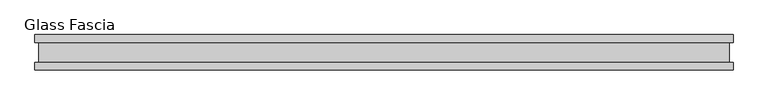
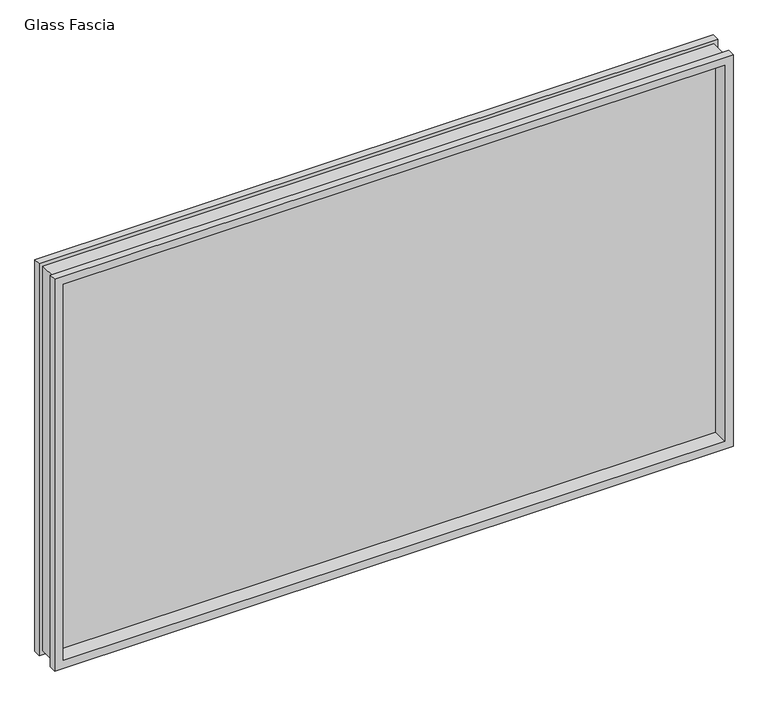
"""IFC4 building model written with IfcOpenShell, lengths in millimetres: proxy geometry, Panel-Fascia-Teknion-Altos-Glass : Glass Fascia."""

from ifc_helpers import new_model, si_unit, frame, origin, place, context, project, spatial, polyline, outline, extrude, faceted_brep, source, transform, mapped, element, save


def glass_fascia_22911ecb(model_context):
    return source(origin(), model_context, "Body", "SolidModel", [
        faceted_brep([(978.7046, -5.0827449, 1201.5625243), (978.7046, 5.0827449, 1201.5625243), (978.7046, 5.0827449, 17.6374757), (978.7046, -5.0827449, 17.6374757), (993.1670757, -28.8801202, 1216.025), (993.1670757, -50.0558594, 1216.025), (993.1670757, -50.0558594, 3.175), (993.1670757, -28.8801202, 3.175), (982.3420758, 28.2698798, 1205.2000001), (982.3420758, -28.8801202, 1205.2000001), (982.3420758, -28.8801202, 13.9999999), (982.3420758, 28.2698798, 13.9999999), (993.1670757, 50.0558594, 1216.025), (993.1670757, 28.2698798, 1216.025), (993.1670757, 28.2698798, 3.175), (993.1670757, 50.0558594, 3.175), (-978.7046, 5.0827449, 17.6374757), (-978.7046, -5.0827449, 17.6374757), (-993.1670757, -50.0558594, 3.175), (-993.1670757, -28.8801202, 3.175), (-982.3420758, -28.8801202, 13.9999999), (-982.3420758, 28.2698798, 13.9999999), (-993.1670757, 28.2698798, 3.175), (-993.1670757, 50.0558594, 3.175), (-978.7046, 5.0827449, 1201.5625243), (-978.7046, -5.0827449, 1201.5625243), (-993.1670757, -50.0558594, 1216.025), (-993.1670757, -28.8801202, 1216.025), (-982.3420758, -28.8801202, 1205.2000001), (-982.3420758, 28.2698798, 1205.2000001), (-993.1670757, 28.2698798, 1216.025), (-993.1670757, 50.0558594, 1216.025), (968.2144089, 50.0558594, 1191.0723332), (-968.2144089, 50.0558594, 1191.0723332), (-968.2144089, 50.0558594, 28.1276668), (968.2144089, 50.0558594, 28.1276668), (968.2144089, 5.0827449, 28.1276668), (-968.2144089, 5.0827449, 28.1276668), (-968.2144089, 5.0827449, 1191.0723332), (968.2144089, 5.0827449, 1191.0723332), (968.2144089, -5.0827449, 1191.0723332), (-968.2144089, -5.0827449, 1191.0723332), (-968.2144089, -5.0827449, 28.1276668), (968.2144089, -5.0827449, 28.1276668), (968.2144089, -50.0558594, 28.1276668), (-968.2144089, -50.0558594, 28.1276668), (-968.2144089, -50.0558594, 1191.0723332), (968.2144089, -50.0558594, 1191.0723332)], [[[0, 1, 2, 3]], [[4, 5, 6, 7]], [[8, 9, 10, 11]], [[12, 13, 14, 15]], [[3, 2, 16, 17]], [[7, 6, 18, 19]], [[11, 10, 20, 21]], [[15, 14, 22, 23]], [[17, 16, 24, 25]], [[19, 18, 26, 27]], [[21, 20, 28, 29]], [[23, 22, 30, 31]], [[15, 23, 31, 12], [32, 33, 34, 35]], [[1, 24, 16, 2], [36, 37, 38, 39]], [[25, 24, 1, 0]], [[3, 17, 25, 0], [40, 41, 42, 43]], [[5, 26, 18, 6], [44, 45, 46, 47]], [[27, 26, 5, 4]], [[7, 19, 27, 4], [9, 28, 20, 10]], [[29, 28, 9, 8]], [[13, 30, 22, 14], [11, 21, 29, 8]], [[31, 30, 13, 12]], [[39, 32, 35, 36]], [[47, 40, 43, 44]], [[36, 35, 34, 37]], [[44, 43, 42, 45]], [[37, 34, 33, 38]], [[45, 42, 41, 46]], [[38, 33, 32, 39]], [[46, 41, 40, 47]]]),
        extrude(outline(polyline([(978.7046, 2.9765625), (978.7046, -2.9765625), (-978.7046, -2.9765625), (-978.7046, 2.9765625), (978.7046, 2.9765625)])), frame((0.0, 0.0, 17.6374757), z_axis=(0.0, 0.0, 1.0), x_axis=(1.0, 0.0, 0.0)), (0.0, 0.0, 1.0), 1183.9250485),
    ])


if __name__ == "__main__":
    model = new_model("IFC4")
    model_context = context("Model", 3, world=origin())
    ifc_project = project(units=[si_unit("LENGTHUNIT", "METRE", prefix="MILLI")], contexts=[model_context])
    site = spatial("IfcSite", under=ifc_project)
    building = spatial("IfcBuilding", under=site)
    placement = place(None, origin())
    glass_fascia_shape = glass_fascia_22911ecb(model_context)
    element("IfcBuildingElementProxy", 1, Name="Panel-Fascia-Teknion-Altos-Glass : Glass Fascia", ObjectType="Panel-Fascia-Teknion-Altos-Glass : Glass Fascia", at=placement, inside=building, context=model_context, shape_type="MappedRepresentation", body=[
        mapped(glass_fascia_shape, transform((0.0, 0.0, 0.0), x_axis=(1.0, 0.0, 0.0), y_axis=(0.0, 1.0, 0.0), z_axis=(0.0, 0.0, 1.0))),
    ])
    save(model, "model.ifc")
